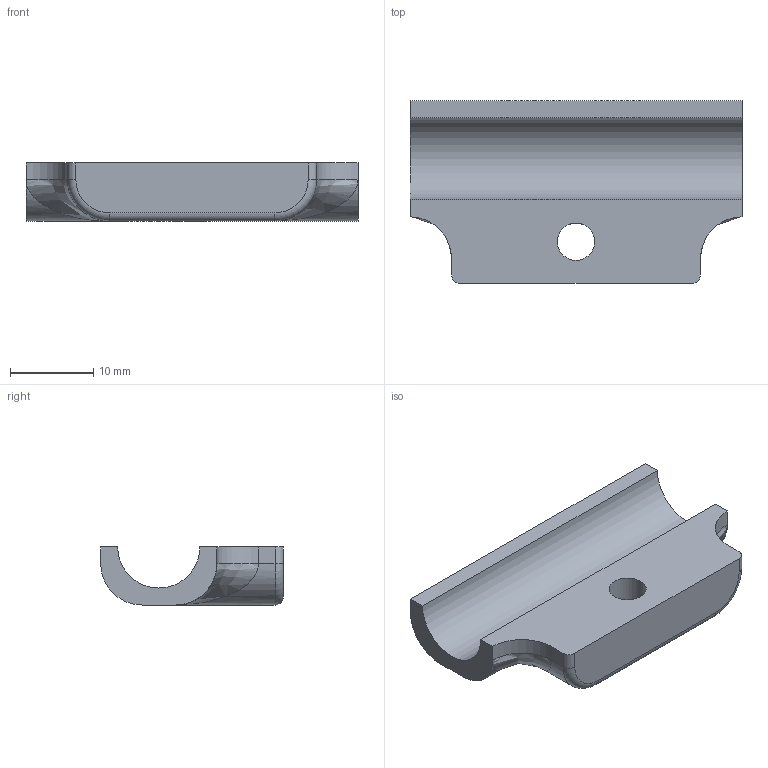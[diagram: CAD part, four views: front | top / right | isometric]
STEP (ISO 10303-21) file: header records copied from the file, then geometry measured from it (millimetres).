
FILE_DESCRIPTION((''),'2;1');
FILE_NAME('D:\Documents\Studium\Fächer\10. Semester\Studienarbeit\Design\LED Halter Unterseite.stp','2016-05-30T07:56:42',('Fabian'),(''),'Autodesk Inventor 2013','Autodesk Inventor 2013','');
FILE_SCHEMA(('AUTOMOTIVE_DESIGN { 1 0 10303 214 1 1 1 1 }'));
Length unit declared in the file: millimetre
Products named in the file (1): LED Halter Unterseite
Bounding box: 40 x 22 x 7 mm (x, y, z)
Volume: 3616 mm3; surface area: 2496.3 mm2
Topology: 1 solids, 1 shells, 25 faces, 78 edges, 69 vertices
Faces by surface type: cylinder 12, plane 9, torus 2, bspline 2
Full cylindrical faces by diameter (mm): 4.5 x1
Entity records: 1031 total; most frequent: CARTESIAN_POINT 247, DIRECTION 150, ORIENTED_EDGE 116, EDGE_CURVE 58, AXIS2_PLACEMENT_3D 51, VECTOR 48, LINE 48, VERTEX_POINT 36
